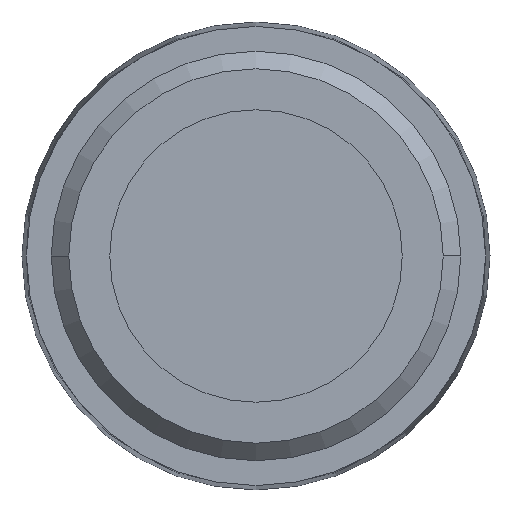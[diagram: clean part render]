
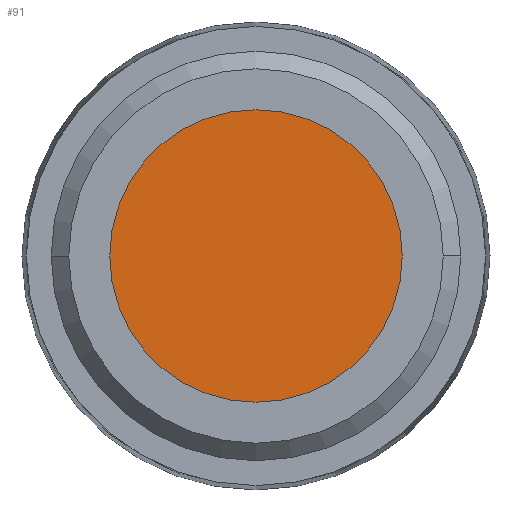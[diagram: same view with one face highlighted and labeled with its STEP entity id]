
A CAD part, front view. The second image highlights one B-rep face of the part: STEP entity #91.
In plain terms, the highlighted planar face has unit normal (0, -1, 0).
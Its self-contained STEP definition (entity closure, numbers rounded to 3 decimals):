
#32 = DIRECTION ( 'NONE',  ( 0., 1., 0. ) ) ;
#43 = DIRECTION ( 'NONE',  ( 0., 0., -1. ) ) ;
#91 = ADVANCED_FACE ( 'NONE', ( #106 ), #282, .T. ) ;
#106 = FACE_OUTER_BOUND ( 'NONE', #115, .T. ) ;
#115 = EDGE_LOOP ( 'NONE', ( #358, #219 ) ) ;
#128 = CARTESIAN_POINT ( 'NONE',  ( 0., 8., 0. ) ) ;
#133 = EDGE_CURVE ( 'NONE', #283, #601, #319, .T. ) ;
#202 = CARTESIAN_POINT ( 'NONE',  ( 0., 8., 3.4 ) ) ;
#219 = ORIENTED_EDGE ( 'NONE', *, *, #133, .F. ) ;
#223 = DIRECTION ( 'NONE',  ( 0., 1., 0. ) ) ;
#282 = PLANE ( 'NONE',  #345 ) ;
#283 = VERTEX_POINT ( 'NONE', #202 ) ;
#298 = CIRCLE ( 'NONE', #588, 3.4 ) ;
#300 = CARTESIAN_POINT ( 'NONE',  ( -3.441, 8., 3.441 ) ) ;
#319 = CIRCLE ( 'NONE', #489, 3.4 ) ;
#345 = AXIS2_PLACEMENT_3D ( 'NONE', #300, #564, #43 ) ;
#346 = CARTESIAN_POINT ( 'NONE',  ( 0., 8., 0. ) ) ;
#358 = ORIENTED_EDGE ( 'NONE', *, *, #655, .F. ) ;
#387 = CARTESIAN_POINT ( 'NONE',  ( 0., 8., -3.4 ) ) ;
#489 = AXIS2_PLACEMENT_3D ( 'NONE', #128, #223, #504 ) ;
#504 = DIRECTION ( 'NONE',  ( 0., 0., -1. ) ) ;
#564 = DIRECTION ( 'NONE',  ( 0., -1., 0. ) ) ;
#588 = AXIS2_PLACEMENT_3D ( 'NONE', #346, #32, #606 ) ;
#601 = VERTEX_POINT ( 'NONE', #387 ) ;
#606 = DIRECTION ( 'NONE',  ( 0., 0., -1. ) ) ;
#655 = EDGE_CURVE ( 'NONE', #601, #283, #298, .T. ) ;
